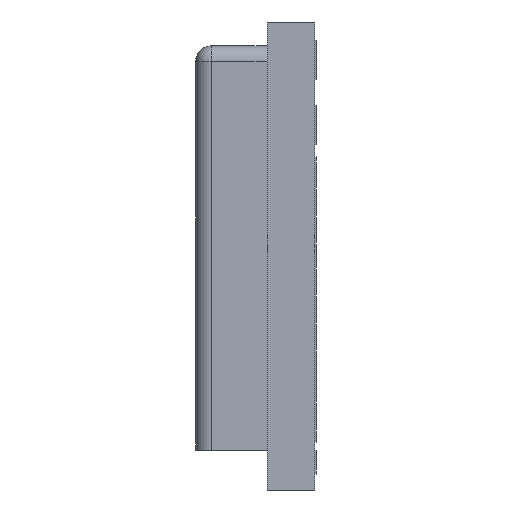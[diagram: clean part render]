
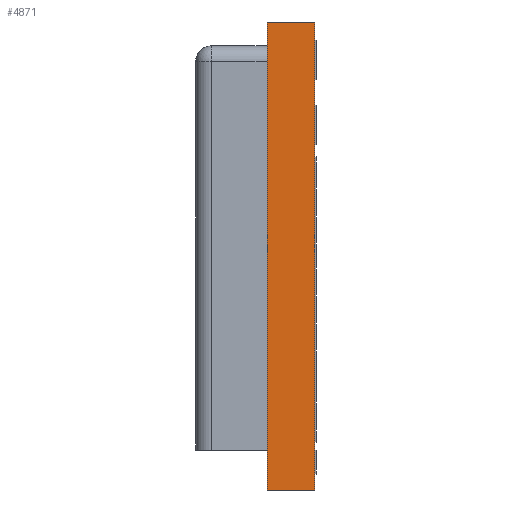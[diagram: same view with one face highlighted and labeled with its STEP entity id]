
A CAD part, left-side view. The second image highlights one B-rep face of the part: STEP entity #4871.
In plain terms, the highlighted planar face has unit normal (-1, 0, 0).
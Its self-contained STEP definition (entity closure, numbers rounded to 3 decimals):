
#41=DIRECTION('',(0.,0.,-1.));
#42=VECTOR('',#41,5.9);
#43=CARTESIAN_POINT('',(-3.2,0.,2.95));
#44=LINE('',#43,#42);
#69=DIRECTION('',(0.,1.,0.));
#70=VECTOR('',#69,0.6);
#71=CARTESIAN_POINT('',(-3.2,-0.6,-2.95));
#72=LINE('',#71,#70);
#76=DIRECTION('',(0.,1.,0.));
#77=VECTOR('',#76,0.6);
#78=CARTESIAN_POINT('',(-3.2,-0.6,2.95));
#79=LINE('',#78,#77);
#97=DIRECTION('',(0.,0.,-1.));
#98=VECTOR('',#97,5.9);
#99=CARTESIAN_POINT('',(-3.2,-0.6,2.95));
#100=LINE('',#99,#98);
#4073=CARTESIAN_POINT('',(-3.2,0.,2.95));
#4074=CARTESIAN_POINT('',(-3.2,0.,-2.95));
#4075=VERTEX_POINT('',#4073);
#4076=VERTEX_POINT('',#4074);
#4081=CARTESIAN_POINT('',(-3.2,-0.6,2.95));
#4082=CARTESIAN_POINT('',(-3.2,-0.6,-2.95));
#4083=VERTEX_POINT('',#4081);
#4084=VERTEX_POINT('',#4082);
#4857=CARTESIAN_POINT('',(-3.2,0.,-2.95));
#4858=DIRECTION('',(-1.,0.,0.));
#4859=DIRECTION('',(0.,0.,1.));
#4860=AXIS2_PLACEMENT_3D('',#4857,#4858,#4859);
#4861=PLANE('',#4860);
#4862=ORIENTED_EDGE('',*,*,#4846,.F.);
#4864=ORIENTED_EDGE('',*,*,#4863,.F.);
#4866=ORIENTED_EDGE('',*,*,#4865,.T.);
#4868=ORIENTED_EDGE('',*,*,#4867,.T.);
#4869=EDGE_LOOP('',(#4862,#4864,#4866,#4868));
#4870=FACE_OUTER_BOUND('',#4869,.F.);
#4846=EDGE_CURVE('',#4075,#4076,#44,.T.);
#4863=EDGE_CURVE('',#4083,#4075,#79,.T.);
#4865=EDGE_CURVE('',#4083,#4084,#100,.T.);
#4867=EDGE_CURVE('',#4084,#4076,#72,.T.);
#4871=ADVANCED_FACE('',(#4870),#4861,.T.);
